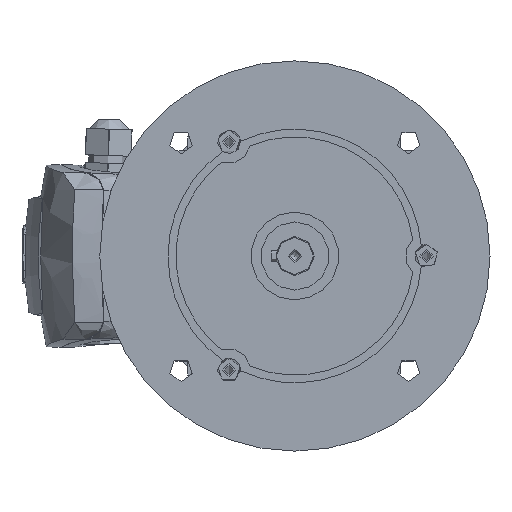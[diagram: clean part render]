
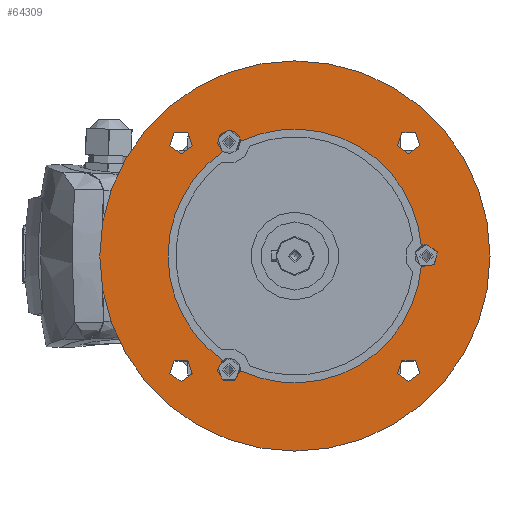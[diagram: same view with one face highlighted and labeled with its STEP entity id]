
A CAD part, left-side view. The second image highlights one B-rep face of the part: STEP entity #64309.
In plain terms, the highlighted planar face has unit normal (-1, 0, 0).
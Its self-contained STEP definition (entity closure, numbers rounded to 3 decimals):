
#61655=CARTESIAN_POINT('',(3.5,58.336,52.336));
#61656=VERTEX_POINT('',#61655);
#61657=CARTESIAN_POINT('',(3.5,58.336,58.336));
#61658=DIRECTION('',(1.0,0.0,0.0));
#61659=DIRECTION('',(0.0,0.0,1.0));
#61660=AXIS2_PLACEMENT_3D('',#61657,#61658,#61659);
#61661=CIRCLE('',#61660,6.);
#61662=EDGE_CURVE('',#61656,#61656,#61661,.T.);
#61683=CARTESIAN_POINT('',(3.5,58.336,-64.336));
#61684=VERTEX_POINT('',#61683);
#61685=CARTESIAN_POINT('',(3.5,58.336,-58.336));
#61686=DIRECTION('',(1.0,0.0,0.0));
#61687=DIRECTION('',(0.0,0.0,1.0));
#61688=AXIS2_PLACEMENT_3D('',#61685,#61686,#61687);
#61689=CIRCLE('',#61688,6.);
#61690=EDGE_CURVE('',#61684,#61684,#61689,.T.);
#61711=CARTESIAN_POINT('',(3.5,-58.336,-64.336));
#61712=VERTEX_POINT('',#61711);
#61713=CARTESIAN_POINT('',(3.5,-58.336,-58.336));
#61714=DIRECTION('',(1.0,0.0,0.0));
#61715=DIRECTION('',(0.0,0.0,1.0));
#61716=AXIS2_PLACEMENT_3D('',#61713,#61714,#61715);
#61717=CIRCLE('',#61716,6.);
#61718=EDGE_CURVE('',#61712,#61712,#61717,.T.);
#61739=CARTESIAN_POINT('',(3.5,-58.336,52.336));
#61740=VERTEX_POINT('',#61739);
#61741=CARTESIAN_POINT('',(3.5,-58.336,58.336));
#61742=DIRECTION('',(1.0,0.0,0.0));
#61743=DIRECTION('',(0.0,0.0,1.0));
#61744=AXIS2_PLACEMENT_3D('',#61741,#61742,#61743);
#61745=CIRCLE('',#61744,6.);
#61746=EDGE_CURVE('',#61740,#61740,#61745,.T.);
#61820=CARTESIAN_POINT('',(3.5,27.758,58.775));
#61821=VERTEX_POINT('',#61820);
#61822=CARTESIAN_POINT('',(3.5,37.021,53.427));
#61823=VERTEX_POINT('',#61822);
#61824=CARTESIAN_POINT('',(3.5,33.75,58.457));
#61825=DIRECTION('',(-1.0,0.0,0.0));
#61826=DIRECTION('',(0.0,0.0,1.0));
#61827=AXIS2_PLACEMENT_3D('',#61824,#61825,#61826);
#61828=CIRCLE('',#61827,6.);
#61829=EDGE_CURVE('',#61821,#61823,#61828,.T.);
#61884=CARTESIAN_POINT('',(3.5,37.021,-53.427));
#61885=VERTEX_POINT('',#61884);
#61892=CARTESIAN_POINT('',(3.5,27.758,-58.775));
#61893=VERTEX_POINT('',#61892);
#61894=CARTESIAN_POINT('',(3.5,33.75,-58.457));
#61895=DIRECTION('',(-1.0,0.0,0.0));
#61896=DIRECTION('',(0.0,0.0,1.0));
#61897=AXIS2_PLACEMENT_3D('',#61894,#61895,#61896);
#61898=CIRCLE('',#61897,6.);
#61899=EDGE_CURVE('',#61885,#61893,#61898,.T.);
#61968=CARTESIAN_POINT('',(3.5,-64.78,-5.348));
#61969=VERTEX_POINT('',#61968);
#61970=CARTESIAN_POINT('',(3.5,-64.78,5.348));
#61971=VERTEX_POINT('',#61970);
#61972=CARTESIAN_POINT('',(3.5,-67.5,0.0));
#61973=DIRECTION('',(-1.0,0.0,0.0));
#61974=DIRECTION('',(0.0,0.0,1.0));
#61975=AXIS2_PLACEMENT_3D('',#61972,#61973,#61974);
#61976=CIRCLE('',#61975,6.);
#61977=EDGE_CURVE('',#61969,#61971,#61976,.T.);
#62718=CARTESIAN_POINT('',(3.5,0.0,0.0));
#62719=DIRECTION('',(-1.0,0.0,0.0));
#62720=DIRECTION('',(0.0,0.0,1.0));
#62721=AXIS2_PLACEMENT_3D('',#62718,#62719,#62720);
#62722=CIRCLE('',#62721,65.0);
#62723=EDGE_CURVE('',#61971,#61821,#62722,.T.);
#62753=CARTESIAN_POINT('',(3.5,0.0,100.0));
#62754=VERTEX_POINT('',#62753);
#62755=CARTESIAN_POINT('',(3.5,0.0,0.0));
#62756=DIRECTION('',(-1.0,0.0,0.0));
#62757=DIRECTION('',(0.0,0.0,1.0));
#62758=AXIS2_PLACEMENT_3D('',#62755,#62756,#62757);
#62759=CIRCLE('',#62758,100.0);
#62760=EDGE_CURVE('',#62754,#62754,#62759,.T.);
#63178=CARTESIAN_POINT('',(3.5,0.0,0.0));
#63179=DIRECTION('',(-1.0,0.0,0.0));
#63180=DIRECTION('',(0.0,0.0,1.0));
#63181=AXIS2_PLACEMENT_3D('',#63178,#63179,#63180);
#63182=CIRCLE('',#63181,65.0);
#63183=EDGE_CURVE('',#61823,#61885,#63182,.T.);
#63356=CARTESIAN_POINT('',(3.5,0.0,0.0));
#63357=DIRECTION('',(-1.0,0.0,0.0));
#63358=DIRECTION('',(0.0,0.0,1.0));
#63359=AXIS2_PLACEMENT_3D('',#63356,#63357,#63358);
#63360=CIRCLE('',#63359,65.0);
#63361=EDGE_CURVE('',#61893,#61969,#63360,.T.);
#64281=CARTESIAN_POINT('',(3.5,100.0,0.0));
#64282=DIRECTION('',(-1.0,0.0,0.0));
#64283=DIRECTION('',(0.0,0.0,1.0));
#64284=AXIS2_PLACEMENT_3D('',#64281,#64282,#64283);
#64285=PLANE('',#64284);
#64286=ORIENTED_EDGE('',*,*,#62760,.T.);
#64287=EDGE_LOOP('',(#64286));
#64288=FACE_OUTER_BOUND('',#64287,.T.);
#64289=ORIENTED_EDGE('',*,*,#61690,.T.);
#64290=EDGE_LOOP('',(#64289));
#64291=FACE_BOUND('',#64290,.T.);
#64292=ORIENTED_EDGE('',*,*,#61718,.T.);
#64293=EDGE_LOOP('',(#64292));
#64294=FACE_BOUND('',#64293,.T.);
#64295=ORIENTED_EDGE('',*,*,#61746,.T.);
#64296=EDGE_LOOP('',(#64295));
#64297=FACE_BOUND('',#64296,.T.);
#64298=ORIENTED_EDGE('',*,*,#61829,.F.);
#64299=ORIENTED_EDGE('',*,*,#62723,.F.);
#64300=ORIENTED_EDGE('',*,*,#61977,.F.);
#64301=ORIENTED_EDGE('',*,*,#63361,.F.);
#64302=ORIENTED_EDGE('',*,*,#61899,.F.);
#64303=ORIENTED_EDGE('',*,*,#63183,.F.);
#64304=EDGE_LOOP('',(#64298,#64299,#64300,#64301,#64302,#64303));
#64305=FACE_BOUND('',#64304,.T.);
#64306=ORIENTED_EDGE('',*,*,#61662,.T.);
#64307=EDGE_LOOP('',(#64306));
#64308=FACE_BOUND('',#64307,.T.);
#64309=ADVANCED_FACE('',(#64288,#64291,#64294,#64297,#64305,#64308),#64285,.T.);
